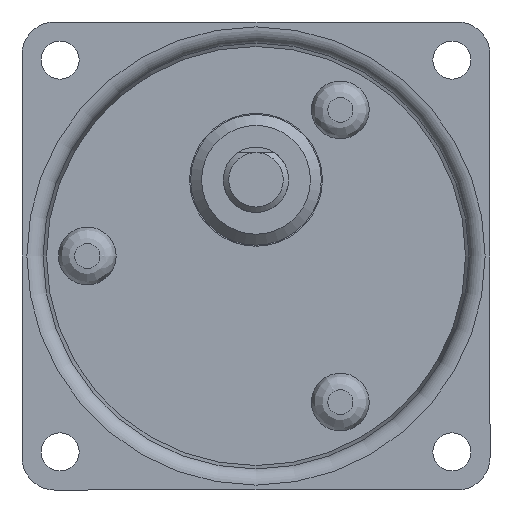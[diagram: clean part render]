
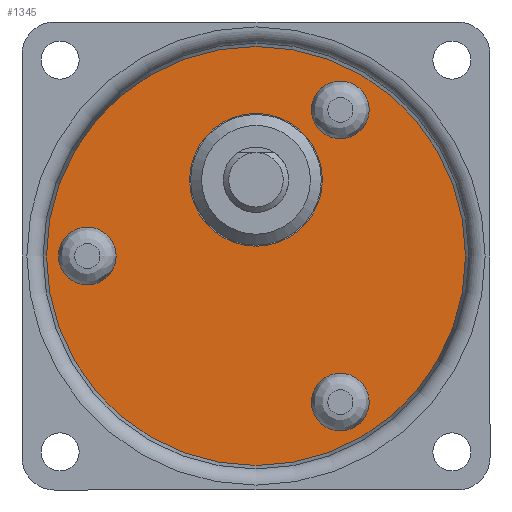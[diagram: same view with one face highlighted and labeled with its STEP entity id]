
A CAD part, front view. The second image highlights one B-rep face of the part: STEP entity #1345.
In plain terms, the highlighted planar face has unit normal (0, -1, 0).
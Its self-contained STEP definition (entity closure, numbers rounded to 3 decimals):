
#852=CARTESIAN_POINT('',(6.425,-6.3,-11.128));
#853=VERTEX_POINT('',#852);
#854=CARTESIAN_POINT('',(7.75,-6.3,-13.423));
#855=DIRECTION('',(0.,1.0,0.));
#856=DIRECTION('',(0.5,0.,-0.866));
#857=AXIS2_PLACEMENT_3D('',#854,#855,#856);
#858=CIRCLE('',#857,2.65);
#859=EDGE_CURVE('',#853,#853,#858,.T.);
#957=CARTESIAN_POINT('',(6.425,-6.3,11.128));
#958=VERTEX_POINT('',#957);
#959=CARTESIAN_POINT('',(7.75,-6.3,13.423));
#960=DIRECTION('',(0.,1.0,0.));
#961=DIRECTION('',(0.5,0.,0.866));
#962=AXIS2_PLACEMENT_3D('',#959,#960,#961);
#963=CIRCLE('',#962,2.65);
#964=EDGE_CURVE('',#958,#958,#963,.T.);
#1062=CARTESIAN_POINT('',(-12.85,-6.3,0.));
#1063=VERTEX_POINT('',#1062);
#1064=CARTESIAN_POINT('',(-15.5,-6.3,0.));
#1065=DIRECTION('',(0.0,1.0,0.0));
#1066=DIRECTION('',(-1.0,0.0,0.0));
#1067=AXIS2_PLACEMENT_3D('',#1064,#1065,#1066);
#1068=CIRCLE('',#1067,2.65);
#1069=EDGE_CURVE('',#1063,#1063,#1068,.T.);
#1102=CARTESIAN_POINT('',(6.1,-6.3,7.));
#1103=VERTEX_POINT('',#1102);
#1104=CARTESIAN_POINT('',(0.,-6.3,7.0));
#1105=DIRECTION('',(0.0,1.0,0.0));
#1106=DIRECTION('',(-1.0,0.0,0.0));
#1107=AXIS2_PLACEMENT_3D('',#1104,#1105,#1106);
#1108=CIRCLE('',#1107,6.1);
#1109=EDGE_CURVE('',#1103,#1103,#1108,.T.);
#1187=CARTESIAN_POINT('',(0.,-6.3,-19.25));
#1188=VERTEX_POINT('',#1187);
#1189=CARTESIAN_POINT('',(0.,-6.3,0.));
#1190=DIRECTION('',(0.0,-1.0,0.0));
#1191=DIRECTION('',(0.0,0.0,1.0));
#1192=AXIS2_PLACEMENT_3D('',#1189,#1190,#1191);
#1193=CIRCLE('',#1192,19.25);
#1194=EDGE_CURVE('',#1188,#1188,#1193,.F.);
#1325=CARTESIAN_POINT('',(0.,-6.3,10.059));
#1326=DIRECTION('',(0.0,1.0,0.0));
#1327=DIRECTION('',(0.0,0.0,1.0));
#1328=AXIS2_PLACEMENT_3D('',#1325,#1326,#1327);
#1329=PLANE('',#1328);
#1330=ORIENTED_EDGE('',*,*,#1194,.F.);
#1331=EDGE_LOOP('',(#1330));
#1332=FACE_OUTER_BOUND('',#1331,.T.);
#1333=ORIENTED_EDGE('',*,*,#859,.T.);
#1334=EDGE_LOOP('',(#1333));
#1335=FACE_BOUND('',#1334,.T.);
#1336=ORIENTED_EDGE('',*,*,#964,.T.);
#1337=EDGE_LOOP('',(#1336));
#1338=FACE_BOUND('',#1337,.T.);
#1339=ORIENTED_EDGE('',*,*,#1069,.T.);
#1340=EDGE_LOOP('',(#1339));
#1341=FACE_BOUND('',#1340,.T.);
#1342=ORIENTED_EDGE('',*,*,#1109,.T.);
#1343=EDGE_LOOP('',(#1342));
#1344=FACE_BOUND('',#1343,.T.);
#1345=ADVANCED_FACE('',(#1332,#1335,#1338,#1341,#1344),#1329,.F.);
